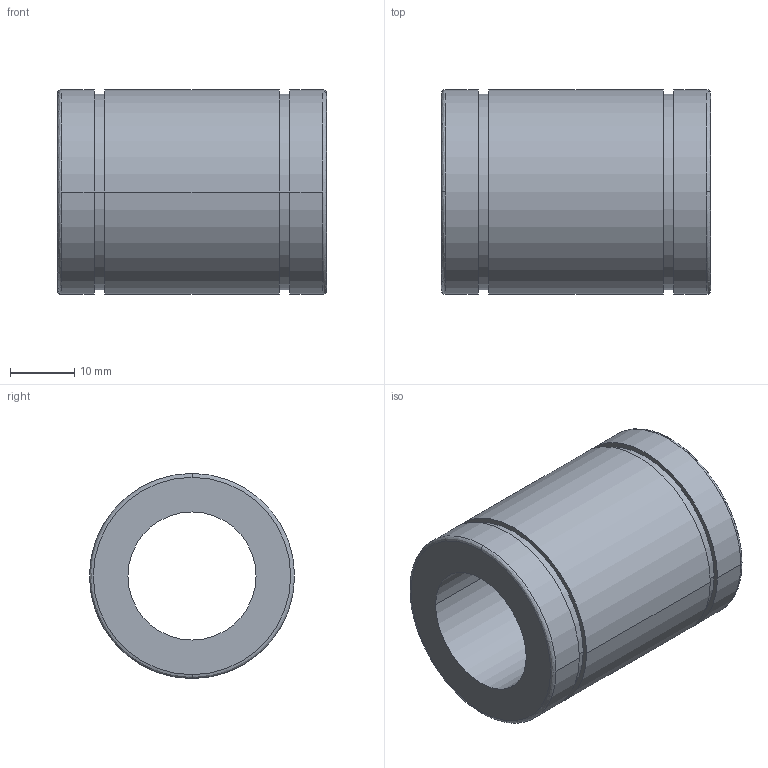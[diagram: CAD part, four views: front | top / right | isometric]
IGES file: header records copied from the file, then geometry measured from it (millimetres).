
Start section: 3D InterOp IGES (Version 21 0 1), Spatial Corp. Copyright (c) 1999-2007.
Global section: file name: N-20UU.igs; native system: Spatial Corp.; preprocessor: 3D InterOp GENERIC/IGES 3.0; author: Noname; organization: Noname; date: 20220311.145008; units: millimetre
Bounding box: 42 x 32 x 32 mm (x, y, z)
Surface area: 8068.8 mm2 (no closed solid volume)
Topology: 0 solids, 0 shells, 22 faces, 100 edges, 100 vertices
Faces by surface type: revolution 16, extrusion 6
